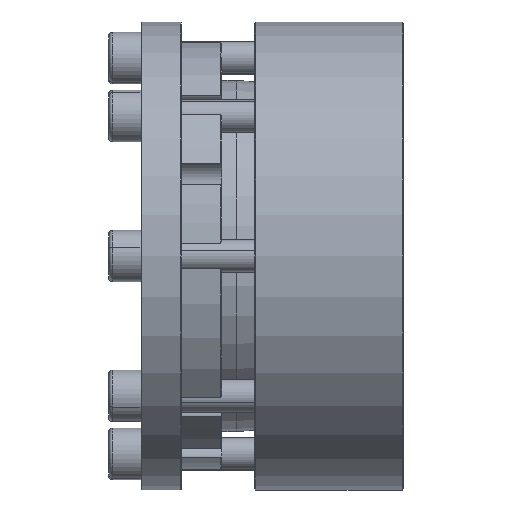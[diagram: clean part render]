
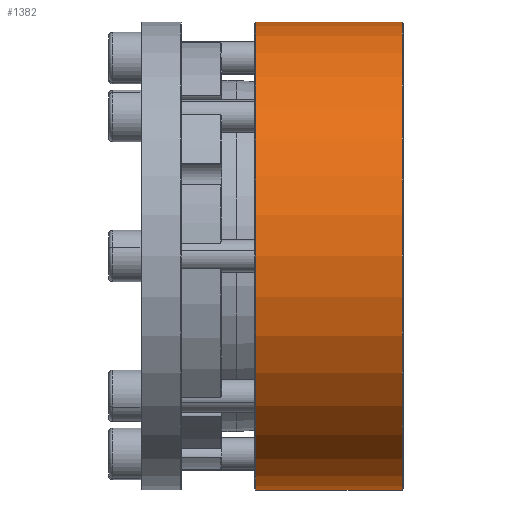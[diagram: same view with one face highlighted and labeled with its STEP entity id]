
A CAD part, front view. The second image highlights one B-rep face of the part: STEP entity #1382.
In plain terms, the highlighted cylindrical face has radius 72.425 mm (diameter 144.85 mm), a partial arc.
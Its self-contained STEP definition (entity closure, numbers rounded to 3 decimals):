
#372 = CARTESIAN_POINT ( 'NONE',  ( -70.581, 26.04, 0. ) ) ;
#388 = ORIENTED_EDGE ( 'NONE', *, *, #2759, .T. ) ;
#515 = VERTEX_POINT ( 'NONE', #4985 ) ;
#706 = CARTESIAN_POINT ( 'NONE',  ( -70.581, 26.04, 72.425 ) ) ;
#922 = AXIS2_PLACEMENT_3D ( 'NONE', #372, #1787, #4228 ) ;
#935 = CARTESIAN_POINT ( 'NONE',  ( -70.181, 26.04, -72.425 ) ) ;
#984 = CARTESIAN_POINT ( 'NONE',  ( -70.181, 26.04, 72.425 ) ) ;
#1382 = ADVANCED_FACE ( 'NONE', ( #1827 ), #5562, .T. ) ;
#1551 = DIRECTION ( 'NONE',  ( 0., 0., 1. ) ) ;
#1572 = EDGE_CURVE ( 'NONE', #515, #4883, #2855, .T. ) ;
#1733 = CIRCLE ( 'NONE', #6596, 72.425 ) ;
#1787 = DIRECTION ( 'NONE',  ( -1., 0., 0. ) ) ;
#1812 = EDGE_LOOP ( 'NONE', ( #1856, #6820, #5729, #388 ) ) ;
#1827 = FACE_OUTER_BOUND ( 'NONE', #1812, .T. ) ;
#1856 = ORIENTED_EDGE ( 'NONE', *, *, #4174, .F. ) ;
#2169 = DIRECTION ( 'NONE',  ( 1., 0., 0. ) ) ;
#2759 = EDGE_CURVE ( 'NONE', #4883, #4870, #3920, .T. ) ;
#2855 = LINE ( 'NONE', #706, #6824 ) ;
#3585 = DIRECTION ( 'NONE',  ( 0., 0., -1. ) ) ;
#3675 = DIRECTION ( 'NONE',  ( -1., 0., 0. ) ) ;
#3920 = CIRCLE ( 'NONE', #7538, 72.425 ) ;
#4174 = EDGE_CURVE ( 'NONE', #8916, #4870, #8706, .T. ) ;
#4228 = DIRECTION ( 'NONE',  ( 0., 0., 1. ) ) ;
#4870 = VERTEX_POINT ( 'NONE', #935 ) ;
#4883 = VERTEX_POINT ( 'NONE', #984 ) ;
#4985 = CARTESIAN_POINT ( 'NONE',  ( -24.981, 26.04, 72.425 ) ) ;
#5562 = CYLINDRICAL_SURFACE ( 'NONE', #922, 72.425 ) ;
#5648 = DIRECTION ( 'NONE',  ( -1., 0., 0. ) ) ;
#5729 = ORIENTED_EDGE ( 'NONE', *, *, #1572, .T. ) ;
#6596 = AXIS2_PLACEMENT_3D ( 'NONE', #7699, #8979, #1551 ) ;
#6820 = ORIENTED_EDGE ( 'NONE', *, *, #9689, .T. ) ;
#6824 = VECTOR ( 'NONE', #3675, 1000. ) ;
#7382 = CARTESIAN_POINT ( 'NONE',  ( -70.181, 26.04, 0. ) ) ;
#7538 = AXIS2_PLACEMENT_3D ( 'NONE', #7382, #2169, #3585 ) ;
#7699 = CARTESIAN_POINT ( 'NONE',  ( -24.981, 26.04, 0. ) ) ;
#8706 = LINE ( 'NONE', #9379, #9603 ) ;
#8916 = VERTEX_POINT ( 'NONE', #9301 ) ;
#8979 = DIRECTION ( 'NONE',  ( -1., 0., 0. ) ) ;
#9301 = CARTESIAN_POINT ( 'NONE',  ( -24.981, 26.04, -72.425 ) ) ;
#9379 = CARTESIAN_POINT ( 'NONE',  ( -70.581, 26.04, -72.425 ) ) ;
#9603 = VECTOR ( 'NONE', #5648, 1000. ) ;
#9689 = EDGE_CURVE ( 'NONE', #8916, #515, #1733, .T. ) ;
